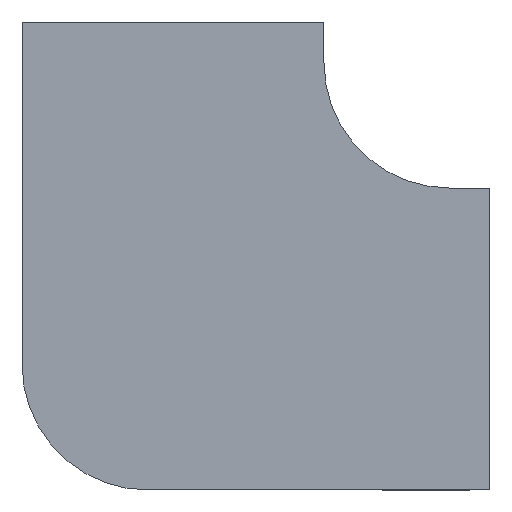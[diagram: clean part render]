
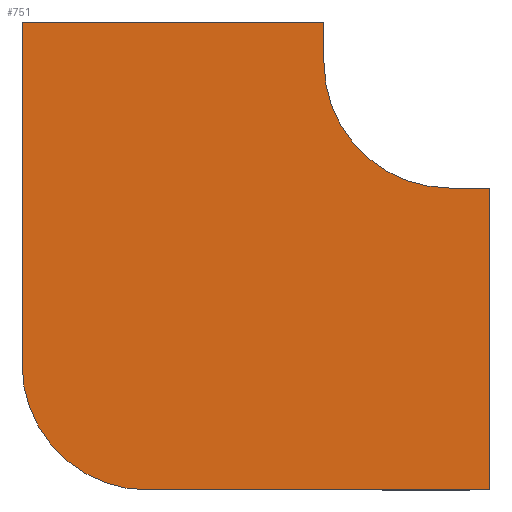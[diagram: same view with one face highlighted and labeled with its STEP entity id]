
A CAD part, front view. The second image highlights one B-rep face of the part: STEP entity #751.
In plain terms, the highlighted planar face has unit normal (0, -1, 0).
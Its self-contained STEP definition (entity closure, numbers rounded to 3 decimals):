
#76 = DIRECTION ( 'NONE',  ( 0., -1., 0. ) ) ;
#91 = EDGE_CURVE ( 'NONE', #321, #1329, #936, .T. ) ;
#95 = EDGE_CURVE ( 'NONE', #1429, #321, #1588, .T. ) ;
#96 = VERTEX_POINT ( 'NONE', #1444 ) ;
#102 = CARTESIAN_POINT ( 'NONE',  ( -425., 0., 40. ) ) ;
#126 = ORIENTED_EDGE ( 'NONE', *, *, #738, .F. ) ;
#137 = EDGE_CURVE ( 'NONE', #1083, #96, #1631, .T. ) ;
#184 = CARTESIAN_POINT ( 'NONE',  ( 0., 0., -125. ) ) ;
#185 = DIRECTION ( 'NONE',  ( 1., 0., 0. ) ) ;
#189 = ORIENTED_EDGE ( 'NONE', *, *, #91, .F. ) ;
#194 = LINE ( 'NONE', #1228, #397 ) ;
#212 = DIRECTION ( 'NONE',  ( 0., 0., 1. ) ) ;
#265 = EDGE_LOOP ( 'NONE', ( #1169, #126, #1032, #1380, #189, #1428, #1461, #404 ) ) ;
#321 = VERTEX_POINT ( 'NONE', #1632 ) ;
#323 = CARTESIAN_POINT ( 'NONE',  ( 40., 0., -425. ) ) ;
#332 = DIRECTION ( 'NONE',  ( 0., 0., 1. ) ) ;
#345 = AXIS2_PLACEMENT_3D ( 'NONE', #479, #854, #1368 ) ;
#368 = CIRCLE ( 'NONE', #1099, 125. ) ;
#371 = EDGE_CURVE ( 'NONE', #1311, #1429, #441, .T. ) ;
#397 = VECTOR ( 'NONE', #212, 1000. ) ;
#400 = LINE ( 'NONE', #771, #624 ) ;
#404 = ORIENTED_EDGE ( 'NONE', *, *, #1281, .F. ) ;
#441 = CIRCLE ( 'NONE', #1443, 125. ) ;
#476 = CARTESIAN_POINT ( 'NONE',  ( -425., 0., -300. ) ) ;
#479 = CARTESIAN_POINT ( 'NONE',  ( 0., 0., 0. ) ) ;
#523 = VECTOR ( 'NONE', #922, 1000. ) ;
#586 = CARTESIAN_POINT ( 'NONE',  ( -425., 0., 40. ) ) ;
#601 = DIRECTION ( 'NONE',  ( 0., 1., 0. ) ) ;
#603 = VECTOR ( 'NONE', #914, 1000. ) ;
#618 = EDGE_CURVE ( 'NONE', #1329, #1055, #670, .T. ) ;
#624 = VECTOR ( 'NONE', #1562, 1000. ) ;
#670 = LINE ( 'NONE', #678, #523 ) ;
#678 = CARTESIAN_POINT ( 'NONE',  ( 40., 0., -425. ) ) ;
#702 = EDGE_CURVE ( 'NONE', #1055, #1598, #368, .T. ) ;
#738 = EDGE_CURVE ( 'NONE', #1598, #1083, #194, .T. ) ;
#751 = ADVANCED_FACE ( 'NONE', ( #1340 ), #819, .T. ) ;
#771 = CARTESIAN_POINT ( 'NONE',  ( -125., 0., 40. ) ) ;
#819 = PLANE ( 'NONE',  #345 ) ;
#854 = DIRECTION ( 'NONE',  ( 0., -1., 0. ) ) ;
#877 = CARTESIAN_POINT ( 'NONE',  ( -300., 0., -425. ) ) ;
#914 = DIRECTION ( 'NONE',  ( 0., 0., -1. ) ) ;
#922 = DIRECTION ( 'NONE',  ( -1., 0., 0. ) ) ;
#936 = LINE ( 'NONE', #1046, #603 ) ;
#996 = CARTESIAN_POINT ( 'NONE',  ( 0., 0., 0. ) ) ;
#1032 = ORIENTED_EDGE ( 'NONE', *, *, #702, .F. ) ;
#1046 = CARTESIAN_POINT ( 'NONE',  ( 40., 0., -125. ) ) ;
#1050 = CARTESIAN_POINT ( 'NONE',  ( -300., 0., -300. ) ) ;
#1055 = VERTEX_POINT ( 'NONE', #877 ) ;
#1083 = VERTEX_POINT ( 'NONE', #102 ) ;
#1099 = AXIS2_PLACEMENT_3D ( 'NONE', #1050, #601, #332 ) ;
#1169 = ORIENTED_EDGE ( 'NONE', *, *, #137, .F. ) ;
#1228 = CARTESIAN_POINT ( 'NONE',  ( -425., 0., -300. ) ) ;
#1230 = DIRECTION ( 'NONE',  ( 1., 0., 0. ) ) ;
#1281 = EDGE_CURVE ( 'NONE', #96, #1311, #400, .T. ) ;
#1311 = VERTEX_POINT ( 'NONE', #1431 ) ;
#1329 = VERTEX_POINT ( 'NONE', #323 ) ;
#1340 = FACE_OUTER_BOUND ( 'NONE', #265, .T. ) ;
#1368 = DIRECTION ( 'NONE',  ( 0., 0., -1. ) ) ;
#1380 = ORIENTED_EDGE ( 'NONE', *, *, #618, .F. ) ;
#1415 = VECTOR ( 'NONE', #1230, 1000. ) ;
#1428 = ORIENTED_EDGE ( 'NONE', *, *, #95, .F. ) ;
#1429 = VERTEX_POINT ( 'NONE', #184 ) ;
#1431 = CARTESIAN_POINT ( 'NONE',  ( -125., 0., 0. ) ) ;
#1433 = CARTESIAN_POINT ( 'NONE',  ( 0., 0., -125. ) ) ;
#1443 = AXIS2_PLACEMENT_3D ( 'NONE', #996, #76, #1506 ) ;
#1444 = CARTESIAN_POINT ( 'NONE',  ( -125., 0., 40. ) ) ;
#1461 = ORIENTED_EDGE ( 'NONE', *, *, #371, .F. ) ;
#1506 = DIRECTION ( 'NONE',  ( 0., 0., -1. ) ) ;
#1562 = DIRECTION ( 'NONE',  ( 0., 0., -1. ) ) ;
#1588 = LINE ( 'NONE', #1433, #1415 ) ;
#1598 = VERTEX_POINT ( 'NONE', #476 ) ;
#1631 = LINE ( 'NONE', #586, #1665 ) ;
#1632 = CARTESIAN_POINT ( 'NONE',  ( 40., 0., -125. ) ) ;
#1665 = VECTOR ( 'NONE', #185, 1000. ) ;
